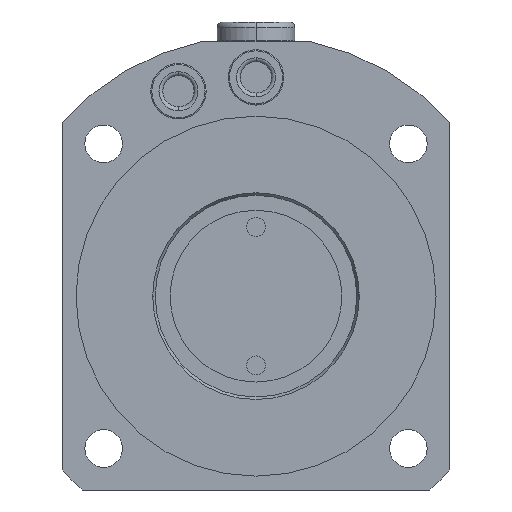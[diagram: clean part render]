
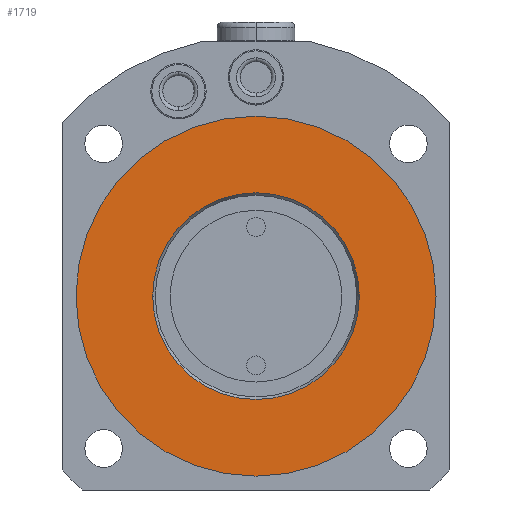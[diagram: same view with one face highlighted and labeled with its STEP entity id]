
A CAD part, front view. The second image highlights one B-rep face of the part: STEP entity #1719.
In plain terms, the highlighted planar face has unit normal (0, -1, 0).
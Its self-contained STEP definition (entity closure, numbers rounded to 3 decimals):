
#1059=PLANE('',#4372);
#1122=FACE_BOUND('',#2146,.T.);
#1123=FACE_BOUND('',#2147,.T.);
#1719=ADVANCED_FACE('',(#1122,#1123),#1059,.T.);
#2146=EDGE_LOOP('',(#2830,#2831));
#2147=EDGE_LOOP('',(#2832,#2833));
#2830=ORIENTED_EDGE('',*,*,#3651,.T.);
#2831=ORIENTED_EDGE('',*,*,#3747,.T.);
#2832=ORIENTED_EDGE('',*,*,#3645,.F.);
#2833=ORIENTED_EDGE('',*,*,#3748,.F.);
#3298=VERTEX_POINT('',#6255);
#3299=VERTEX_POINT('',#6256);
#3304=VERTEX_POINT('',#6267);
#3305=VERTEX_POINT('',#6269);
#3645=EDGE_CURVE('',#3298,#3299,#3950,.T.);
#3651=EDGE_CURVE('',#3305,#3304,#3953,.T.);
#3747=EDGE_CURVE('',#3304,#3305,#4001,.T.);
#3748=EDGE_CURVE('',#3299,#3298,#4002,.T.);
#3950=CIRCLE('',#4285,32.5);
#3953=CIRCLE('',#4289,18.662);
#4001=CIRCLE('',#4369,18.662);
#4002=CIRCLE('',#4371,32.5);
#4285=AXIS2_PLACEMENT_3D('',#6254,#5069,#5070);
#4289=AXIS2_PLACEMENT_3D('',#6268,#5080,#5081);
#4369=AXIS2_PLACEMENT_3D('',#6572,#5273,#5274);
#4371=AXIS2_PLACEMENT_3D('',#6574,#5277,#5278);
#4372=AXIS2_PLACEMENT_3D('',#6575,#5279,#5280);
#5069=DIRECTION('',(0.,1.,0.));
#5070=DIRECTION('',(-1.,0.,0.));
#5080=DIRECTION('',(0.,1.,0.));
#5081=DIRECTION('',(-1.,0.,0.));
#5273=DIRECTION('',(0.,1.,0.));
#5274=DIRECTION('',(-1.,0.,0.));
#5277=DIRECTION('',(0.,1.,0.));
#5278=DIRECTION('',(-1.,0.,0.));
#5279=DIRECTION('',(0.,-1.,0.));
#5280=DIRECTION('',(-1.,0.,0.));
#6254=CARTESIAN_POINT('',(0.,-85.,0.));
#6255=CARTESIAN_POINT('',(-32.5,-85.,0.));
#6256=CARTESIAN_POINT('',(32.5,-85.,0.));
#6267=CARTESIAN_POINT('',(-18.662,-85.,0.));
#6268=CARTESIAN_POINT('',(0.,-85.,0.));
#6269=CARTESIAN_POINT('',(18.662,-85.,0.));
#6572=CARTESIAN_POINT('',(0.,-85.,0.));
#6574=CARTESIAN_POINT('',(0.,-85.,0.));
#6575=CARTESIAN_POINT('',(-18.662,-85.,0.));
